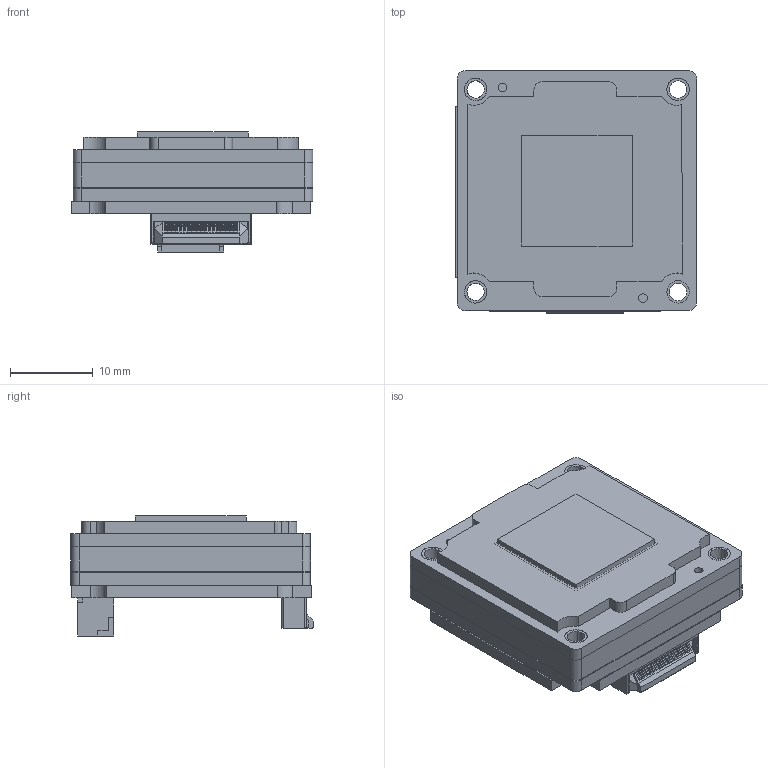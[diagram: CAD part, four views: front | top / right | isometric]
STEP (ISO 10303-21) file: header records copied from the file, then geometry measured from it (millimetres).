
FILE_DESCRIPTION (( 'STEP AP203' ), '1' );
FILE_NAME ('BFS-GE_U3-16S2M(C)-BD2.STEP', '2021-09-23T04:01:35', ( '' ), ( '' ), 'SwSTEP 2.0', 'SolidWorks 2018', '' );
FILE_SCHEMA (( 'CONFIG_CONTROL_DESIGN' ));
Length unit declared in the file: millimetre
Products named in the file (1): BFS-GE_U3-16S2M(C)-BD2
Bounding box: 29.21 x 29.3 x 14.52 mm (x, y, z)
Volume: 8225.1 mm3; surface area: 11229.6 mm2
Topology: 13 solids, 13 shells, 1104 faces, 3033 edges, 2004 vertices
Faces by surface type: plane 874, cylinder 222, torus 4, bspline 4
Entity records: 35437 total; most frequent: CARTESIAN_POINT 6938, ORIENTED_EDGE 6066, DIRECTION 5589, EDGE_CURVE 3033, VECTOR 2563, LINE 2563, VERTEX_POINT 2004, AXIS2_PLACEMENT_3D 1513
